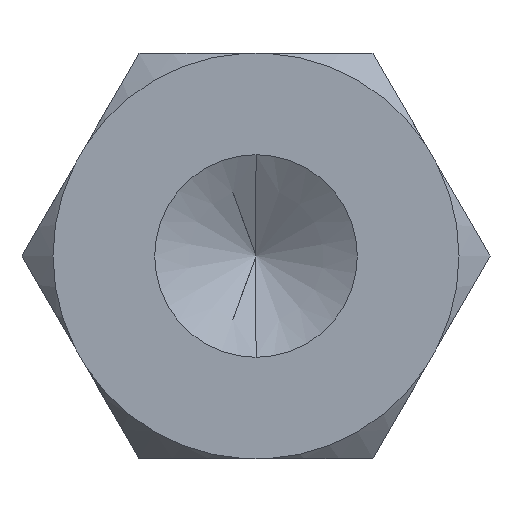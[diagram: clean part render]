
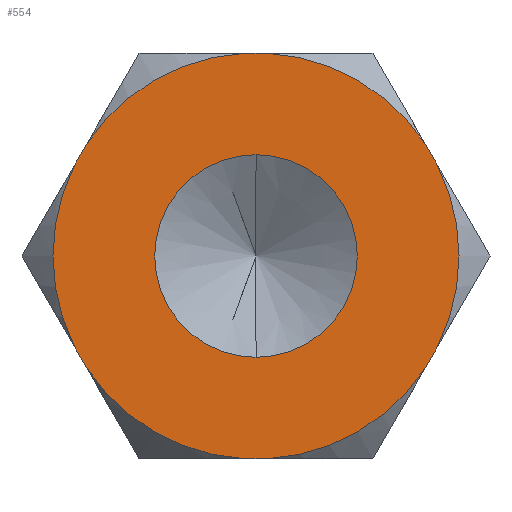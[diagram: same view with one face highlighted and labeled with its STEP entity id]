
A CAD part, front view. The second image highlights one B-rep face of the part: STEP entity #554.
In plain terms, the highlighted planar face has unit normal (0, -1, 0).
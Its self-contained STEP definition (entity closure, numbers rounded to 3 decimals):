
#6 = VECTOR ( 'NONE', #821, 1000. ) ;
#7 = VERTEX_POINT ( 'NONE', #583 ) ;
#9 = CIRCLE ( 'NONE', #64, 8.515 ) ;
#10 = CARTESIAN_POINT ( 'NONE',  ( 0., 0., 0. ) ) ;
#12 = DIRECTION ( 'NONE',  ( 0., 0., 1. ) ) ;
#19 = CARTESIAN_POINT ( 'NONE',  ( 0.504, 0., -8.5 ) ) ;
#26 = DIRECTION ( 'NONE',  ( 0., 0., -1. ) ) ;
#30 = EDGE_CURVE ( 'NONE', #787, #408, #42, .T. ) ;
#42 = CIRCLE ( 'NONE', #195, 8.515 ) ;
#53 = ORIENTED_EDGE ( 'NONE', *, *, #643, .T. ) ;
#54 = DIRECTION ( 'NONE',  ( 0., 0., 1. ) ) ;
#57 = EDGE_CURVE ( 'NONE', #7, #167, #233, .T. ) ;
#64 = AXIS2_PLACEMENT_3D ( 'NONE', #85, #1062, #12 ) ;
#67 = DIRECTION ( 'NONE',  ( -1., 0., 0. ) ) ;
#68 = EDGE_CURVE ( 'NONE', #748, #427, #248, .T. ) ;
#83 = AXIS2_PLACEMENT_3D ( 'NONE', #1050, #594, #951 ) ;
#85 = CARTESIAN_POINT ( 'NONE',  ( 0., 0., 0. ) ) ;
#90 = LINE ( 'NONE', #897, #906 ) ;
#104 = ORIENTED_EDGE ( 'NONE', *, *, #601, .T. ) ;
#108 = EDGE_CURVE ( 'NONE', #757, #1065, #637, .T. ) ;
#124 = ORIENTED_EDGE ( 'NONE', *, *, #536, .F. ) ;
#136 = EDGE_CURVE ( 'NONE', #757, #408, #781, .T. ) ;
#142 = ORIENTED_EDGE ( 'NONE', *, *, #136, .F. ) ;
#158 = DIRECTION ( 'NONE',  ( 0., -1., 0. ) ) ;
#166 = DIRECTION ( 'NONE',  ( -0.5, 0., 0.866 ) ) ;
#167 = VERTEX_POINT ( 'NONE', #420 ) ;
#186 = CARTESIAN_POINT ( 'NONE',  ( 0.504, 0., 8.5 ) ) ;
#195 = AXIS2_PLACEMENT_3D ( 'NONE', #383, #1097, #737 ) ;
#209 = ORIENTED_EDGE ( 'NONE', *, *, #634, .F. ) ;
#223 = ORIENTED_EDGE ( 'NONE', *, *, #57, .F. ) ;
#233 = CIRCLE ( 'NONE', #1049, 4.25 ) ;
#239 = VERTEX_POINT ( 'NONE', #19 ) ;
#243 = EDGE_CURVE ( 'NONE', #787, #795, #457, .T. ) ;
#247 = FACE_OUTER_BOUND ( 'NONE', #364, .T. ) ;
#248 = LINE ( 'NONE', #1127, #903 ) ;
#266 = ORIENTED_EDGE ( 'NONE', *, *, #108, .T. ) ;
#278 = DIRECTION ( 'NONE',  ( 1., 0., 0. ) ) ;
#279 = DIRECTION ( 'NONE',  ( 0., -1., 0. ) ) ;
#307 = VECTOR ( 'NONE', #856, 1000. ) ;
#313 = CARTESIAN_POINT ( 'NONE',  ( 7.109, 0., 4.687 ) ) ;
#317 = ORIENTED_EDGE ( 'NONE', *, *, #423, .T. ) ;
#320 = ORIENTED_EDGE ( 'NONE', *, *, #879, .F. ) ;
#331 = EDGE_CURVE ( 'NONE', #167, #7, #885, .T. ) ;
#352 = ORIENTED_EDGE ( 'NONE', *, *, #68, .F. ) ;
#356 = DIRECTION ( 'NONE',  ( 0., 0., -1. ) ) ;
#364 = EDGE_LOOP ( 'NONE', ( #209, #53, #124, #614, #352, #104, #320, #317, #617, #1041, #142, #266 ) ) ;
#367 = DIRECTION ( 'NONE',  ( 0., 0., 1. ) ) ;
#383 = CARTESIAN_POINT ( 'NONE',  ( 0., 0., 0. ) ) ;
#401 = CARTESIAN_POINT ( 'NONE',  ( 0., 0., 0. ) ) ;
#408 = VERTEX_POINT ( 'NONE', #999 ) ;
#410 = PLANE ( 'NONE',  #83 ) ;
#420 = CARTESIAN_POINT ( 'NONE',  ( 0., 0., 4.25 ) ) ;
#422 = CARTESIAN_POINT ( 'NONE',  ( 4.907, 0., -8.5 ) ) ;
#423 = EDGE_CURVE ( 'NONE', #239, #795, #568, .T. ) ;
#427 = VERTEX_POINT ( 'NONE', #483 ) ;
#428 = CARTESIAN_POINT ( 'NONE',  ( -7.109, 0., 4.687 ) ) ;
#457 = LINE ( 'NONE', #461, #6 ) ;
#461 = CARTESIAN_POINT ( 'NONE',  ( 9.815, 0., 0. ) ) ;
#483 = CARTESIAN_POINT ( 'NONE',  ( -7.613, 0., -3.813 ) ) ;
#489 = CARTESIAN_POINT ( 'NONE',  ( 0., 0., 0. ) ) ;
#498 = DIRECTION ( 'NONE',  ( 0.5, 0., 0.866 ) ) ;
#529 = AXIS2_PLACEMENT_3D ( 'NONE', #1143, #279, #356 ) ;
#531 = CIRCLE ( 'NONE', #1030, 8.515 ) ;
#536 = EDGE_CURVE ( 'NONE', #1020, #948, #878, .T. ) ;
#554 = ADVANCED_FACE ( 'NONE', ( #776, #247 ), #410, .F. ) ;
#568 = CIRCLE ( 'NONE', #1114, 8.515 ) ;
#570 = AXIS2_PLACEMENT_3D ( 'NONE', #489, #1043, #54 ) ;
#577 = ORIENTED_EDGE ( 'NONE', *, *, #331, .F. ) ;
#583 = CARTESIAN_POINT ( 'NONE',  ( 0., 0., -4.25 ) ) ;
#591 = CARTESIAN_POINT ( 'NONE',  ( 0., 0., 0. ) ) ;
#594 = DIRECTION ( 'NONE',  ( 0., 1., 0. ) ) ;
#601 = EDGE_CURVE ( 'NONE', #748, #1052, #9, .T. ) ;
#606 = DIRECTION ( 'NONE',  ( 0., -1., 0. ) ) ;
#614 = ORIENTED_EDGE ( 'NONE', *, *, #927, .T. ) ;
#617 = ORIENTED_EDGE ( 'NONE', *, *, #243, .F. ) ;
#634 = EDGE_CURVE ( 'NONE', #818, #1065, #90, .T. ) ;
#637 = CIRCLE ( 'NONE', #1076, 8.515 ) ;
#639 = VECTOR ( 'NONE', #498, 1000. ) ;
#643 = EDGE_CURVE ( 'NONE', #818, #948, #531, .T. ) ;
#644 = CARTESIAN_POINT ( 'NONE',  ( -7.109, 0., -4.687 ) ) ;
#668 = DIRECTION ( 'NONE',  ( 0., -1., 0. ) ) ;
#737 = DIRECTION ( 'NONE',  ( 0., 0., 1. ) ) ;
#748 = VERTEX_POINT ( 'NONE', #644 ) ;
#757 = VERTEX_POINT ( 'NONE', #313 ) ;
#776 = FACE_BOUND ( 'NONE', #863, .T. ) ;
#781 = LINE ( 'NONE', #952, #307 ) ;
#787 = VERTEX_POINT ( 'NONE', #929 ) ;
#795 = VERTEX_POINT ( 'NONE', #998 ) ;
#809 = VECTOR ( 'NONE', #67, 1000. ) ;
#818 = VERTEX_POINT ( 'NONE', #1082 ) ;
#821 = DIRECTION ( 'NONE',  ( -0.5, 0., -0.866 ) ) ;
#856 = DIRECTION ( 'NONE',  ( 0.5, 0., -0.866 ) ) ;
#863 = EDGE_LOOP ( 'NONE', ( #223, #577 ) ) ;
#874 = DIRECTION ( 'NONE',  ( 0., 0., -1. ) ) ;
#878 = LINE ( 'NONE', #967, #639 ) ;
#879 = EDGE_CURVE ( 'NONE', #239, #1052, #949, .T. ) ;
#884 = CARTESIAN_POINT ( 'NONE',  ( -0.504, 0., -8.5 ) ) ;
#885 = CIRCLE ( 'NONE', #529, 4.25 ) ;
#897 = CARTESIAN_POINT ( 'NONE',  ( -4.907, 0., 8.5 ) ) ;
#901 = CARTESIAN_POINT ( 'NONE',  ( -7.613, 0., 3.813 ) ) ;
#903 = VECTOR ( 'NONE', #166, 1000. ) ;
#906 = VECTOR ( 'NONE', #278, 1000. ) ;
#927 = EDGE_CURVE ( 'NONE', #1020, #427, #979, .T. ) ;
#929 = CARTESIAN_POINT ( 'NONE',  ( 7.613, 0., -3.813 ) ) ;
#947 = DIRECTION ( 'NONE',  ( 0., 0., 1. ) ) ;
#948 = VERTEX_POINT ( 'NONE', #428 ) ;
#949 = LINE ( 'NONE', #422, #809 ) ;
#951 = DIRECTION ( 'NONE',  ( 0., 0., 1. ) ) ;
#952 = CARTESIAN_POINT ( 'NONE',  ( 4.907, 0., 8.5 ) ) ;
#967 = CARTESIAN_POINT ( 'NONE',  ( -9.815, 0., 0. ) ) ;
#979 = CIRCLE ( 'NONE', #570, 8.515 ) ;
#980 = DIRECTION ( 'NONE',  ( 0., -1., 0. ) ) ;
#998 = CARTESIAN_POINT ( 'NONE',  ( 7.109, 0., -4.687 ) ) ;
#999 = CARTESIAN_POINT ( 'NONE',  ( 7.613, 0., 3.813 ) ) ;
#1020 = VERTEX_POINT ( 'NONE', #901 ) ;
#1030 = AXIS2_PLACEMENT_3D ( 'NONE', #10, #980, #367 ) ;
#1041 = ORIENTED_EDGE ( 'NONE', *, *, #30, .T. ) ;
#1043 = DIRECTION ( 'NONE',  ( 0., -1., 0. ) ) ;
#1049 = AXIS2_PLACEMENT_3D ( 'NONE', #1113, #606, #874 ) ;
#1050 = CARTESIAN_POINT ( 'NONE',  ( 0., 0., 0. ) ) ;
#1052 = VERTEX_POINT ( 'NONE', #884 ) ;
#1062 = DIRECTION ( 'NONE',  ( 0., -1., 0. ) ) ;
#1065 = VERTEX_POINT ( 'NONE', #186 ) ;
#1076 = AXIS2_PLACEMENT_3D ( 'NONE', #591, #158, #947 ) ;
#1082 = CARTESIAN_POINT ( 'NONE',  ( -0.504, 0., 8.5 ) ) ;
#1097 = DIRECTION ( 'NONE',  ( 0., -1., 0. ) ) ;
#1113 = CARTESIAN_POINT ( 'NONE',  ( 0., 0., 0. ) ) ;
#1114 = AXIS2_PLACEMENT_3D ( 'NONE', #401, #668, #26 ) ;
#1127 = CARTESIAN_POINT ( 'NONE',  ( -4.907, 0., -8.5 ) ) ;
#1143 = CARTESIAN_POINT ( 'NONE',  ( 0., 0., 0. ) ) ;
